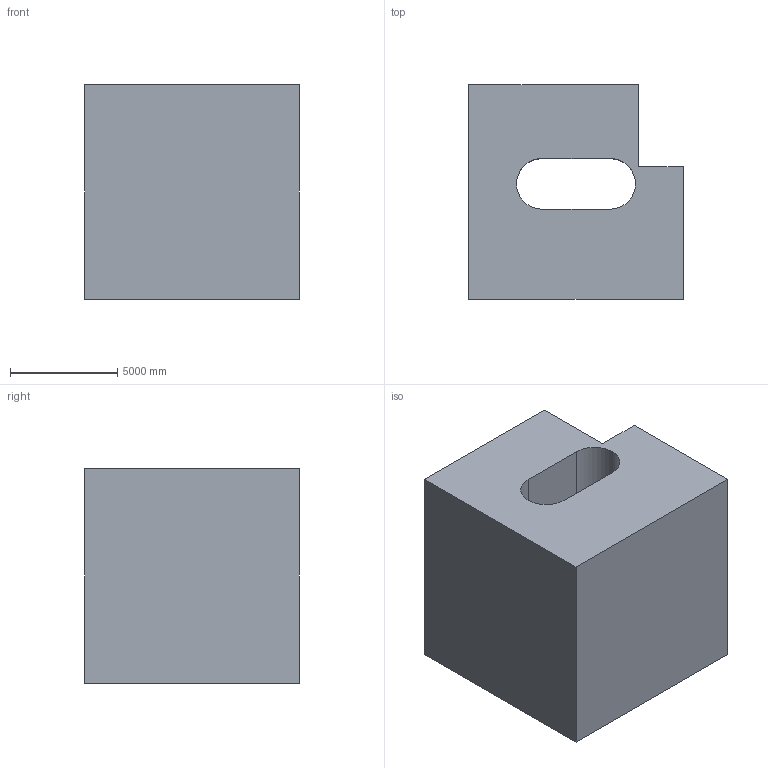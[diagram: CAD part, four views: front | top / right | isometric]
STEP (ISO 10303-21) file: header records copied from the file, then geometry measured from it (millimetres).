
FILE_DESCRIPTION (( 'STEP AP203' ), '1' );
FILE_NAME ('169.STEP', '2022-07-28T13:48:00', ( 'user' ), ( '' ), 'SwSTEP 2.0', 'SolidWorks 2021', '' );
FILE_SCHEMA (( 'CONFIG_CONTROL_DESIGN' ));
Length unit declared in the file: centimetre
Products named in the file (1): 169
Bounding box: 10000 x 10000 x 10000 mm (x, y, z)
Volume: 792710322537.8 mm3; surface area: 698299145.3 mm2
Topology: 1 solids, 1 shells, 14 faces, 36 edges, 24 vertices
Faces by surface type: plane 11, cylinder 3
Entity records: 507 total; most frequent: CARTESIAN_POINT 75, DIRECTION 72, ORIENTED_EDGE 72, EDGE_CURVE 36, VECTOR 30, LINE 30, VERTEX_POINT 24, AXIS2_PLACEMENT_3D 21
